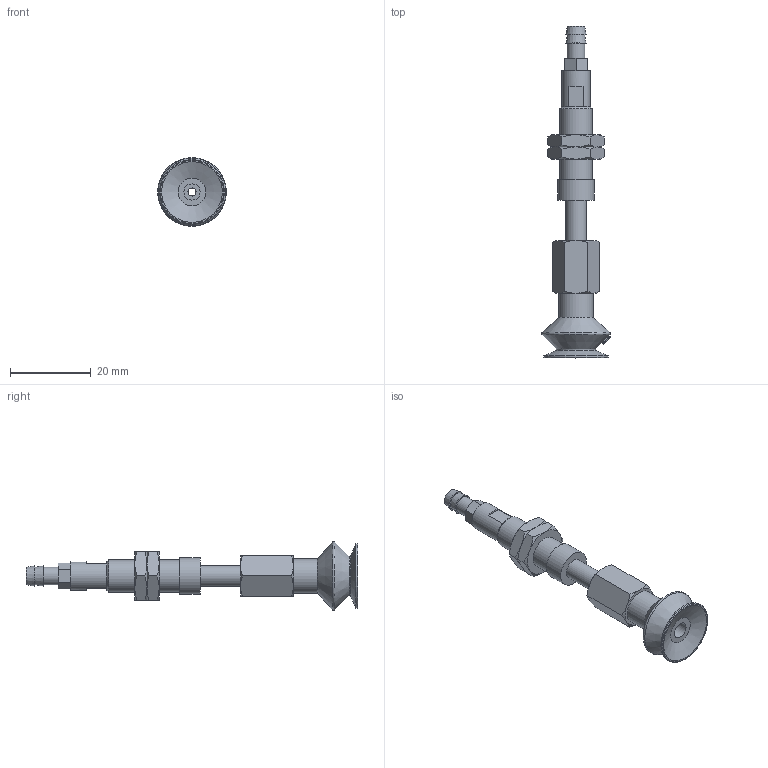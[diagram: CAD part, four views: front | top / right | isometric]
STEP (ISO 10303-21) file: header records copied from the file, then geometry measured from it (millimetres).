
FILE_DESCRIPTION(('STEP AP203'),'1');
FILE_NAME('-T.stp','2025-08-27T01:05:42',(' '),(' '),'Spatial InterOp 3D',' ',' ');
FILE_SCHEMA(('CONFIG_CONTROL_DESIGN'));
Length unit declared in the file: millimetre
Products named in the file (9): BNABPBTS-15A-10-※-T; ADAPTER; NAPATS-10A-10--M; Nut-15A-S-PB; NAPBTS-15A-10--F; BPBG-15A-※; __27; BPBG-15A; T
Assembly tree (9 placements, depth 3):
  BNABPBTS-15A-10-※-T
    ADAPTER
    NAPATS-10A-10--M
    Nut-15A-S-PB  x2
    NAPBTS-15A-10--F
    BPBG-15A-※
      __27
      BPBG-15A
    T
Bounding box: 17 x 82 x 17 mm (x, y, z)
Volume: 4768 mm3; surface area: 5260.9 mm2
Topology: 8 solids, 8 shells, 146 faces, 307 edges, 189 vertices
Faces by surface type: plane 54, cone 53, cylinder 20, torus 11, bspline 8
Full cylindrical faces by diameter (mm): 2 x2, 3 x1, 4 x3, 4.134 x1, 4.3 x1, 5 x3, 6 x2, 7 x1, 7.188 x2, 8 x1, 8.5 x1, 9 x1, 16 x1
Entity records: 4743 total; most frequent: CARTESIAN_POINT 1956, DIRECTION 483, ORIENTED_EDGE 408, AXIS2_PLACEMENT_3D 218, EDGE_CURVE 204, EDGE_LOOP 189, FACE_OUTER_BOUND 153, VERTEX_POINT 149
